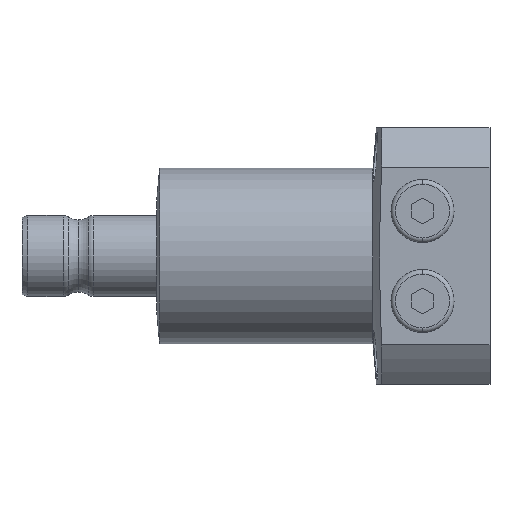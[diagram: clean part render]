
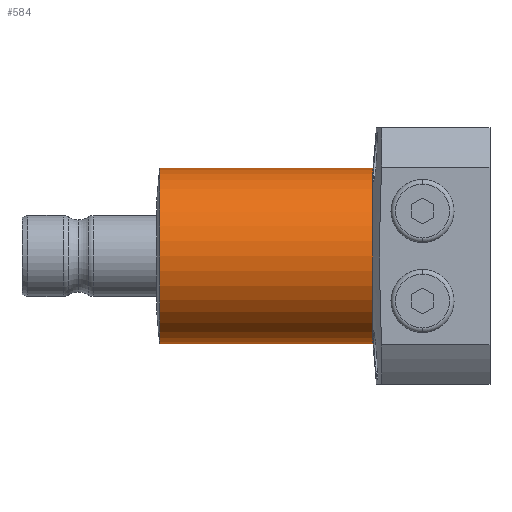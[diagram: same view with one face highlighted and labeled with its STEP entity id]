
A CAD part, left-side view. The second image highlights one B-rep face of the part: STEP entity #584.
In plain terms, the highlighted cylindrical face has radius 19.5 mm (diameter 39 mm), a partial arc.
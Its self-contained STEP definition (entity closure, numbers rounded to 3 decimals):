
#51 = DIRECTION ( 'NONE',  ( 0., 0., -1. ) ) ;
#120 = DIRECTION ( 'NONE',  ( 0., 0., -1. ) ) ;
#219 = EDGE_CURVE ( 'NONE', #1240, #3734, #3675, .T. ) ;
#264 = CARTESIAN_POINT ( 'NONE',  ( 0., 0., 0. ) ) ;
#323 = VECTOR ( 'NONE', #3127, 1000. ) ;
#542 = CARTESIAN_POINT ( 'NONE',  ( 0., 26., 19.5 ) ) ;
#584 = ADVANCED_FACE ( 'NONE', ( #1230 ), #2795, .T. ) ;
#639 = EDGE_CURVE ( 'NONE', #3162, #2089, #2692, .T. ) ;
#1019 = VECTOR ( 'NONE', #2514, 1000. ) ;
#1093 = DIRECTION ( 'NONE',  ( 0., -1., 0. ) ) ;
#1225 = CIRCLE ( 'NONE', #3785, 19.5 ) ;
#1230 = FACE_OUTER_BOUND ( 'NONE', #1835, .T. ) ;
#1232 = ORIENTED_EDGE ( 'NONE', *, *, #219, .F. ) ;
#1240 = VERTEX_POINT ( 'NONE', #3815 ) ;
#1555 = CARTESIAN_POINT ( 'NONE',  ( 0., 0., 19.5 ) ) ;
#1578 = CARTESIAN_POINT ( 'NONE',  ( 0., 73.431, -19.5 ) ) ;
#1635 = DIRECTION ( 'NONE',  ( 0., -1., 0. ) ) ;
#1835 = EDGE_LOOP ( 'NONE', ( #1232, #3654, #2702, #2081 ) ) ;
#1854 = CARTESIAN_POINT ( 'NONE',  ( 0., 26., -19.5 ) ) ;
#1858 = AXIS2_PLACEMENT_3D ( 'NONE', #264, #1635, #51 ) ;
#2024 = DIRECTION ( 'NONE',  ( 0., -1., 0. ) ) ;
#2081 = ORIENTED_EDGE ( 'NONE', *, *, #3594, .F. ) ;
#2089 = VERTEX_POINT ( 'NONE', #1854 ) ;
#2329 = EDGE_CURVE ( 'NONE', #1240, #3162, #3674, .T. ) ;
#2380 = AXIS2_PLACEMENT_3D ( 'NONE', #2975, #1093, #3303 ) ;
#2514 = DIRECTION ( 'NONE',  ( 0., -1., 0. ) ) ;
#2692 = LINE ( 'NONE', #3772, #1019 ) ;
#2702 = ORIENTED_EDGE ( 'NONE', *, *, #639, .T. ) ;
#2795 = CYLINDRICAL_SURFACE ( 'NONE', #1858, 19.5 ) ;
#2975 = CARTESIAN_POINT ( 'NONE',  ( 0., 73.431, 0. ) ) ;
#3127 = DIRECTION ( 'NONE',  ( 0., -1., 0. ) ) ;
#3162 = VERTEX_POINT ( 'NONE', #1578 ) ;
#3303 = DIRECTION ( 'NONE',  ( 0., 0., -1. ) ) ;
#3594 = EDGE_CURVE ( 'NONE', #3734, #2089, #1225, .T. ) ;
#3654 = ORIENTED_EDGE ( 'NONE', *, *, #2329, .T. ) ;
#3674 = CIRCLE ( 'NONE', #2380, 19.5 ) ;
#3675 = LINE ( 'NONE', #1555, #323 ) ;
#3734 = VERTEX_POINT ( 'NONE', #542 ) ;
#3772 = CARTESIAN_POINT ( 'NONE',  ( 0., 0., -19.5 ) ) ;
#3785 = AXIS2_PLACEMENT_3D ( 'NONE', #3915, #2024, #120 ) ;
#3815 = CARTESIAN_POINT ( 'NONE',  ( 0., 73.431, 19.5 ) ) ;
#3915 = CARTESIAN_POINT ( 'NONE',  ( 0., 26., 0. ) ) ;
